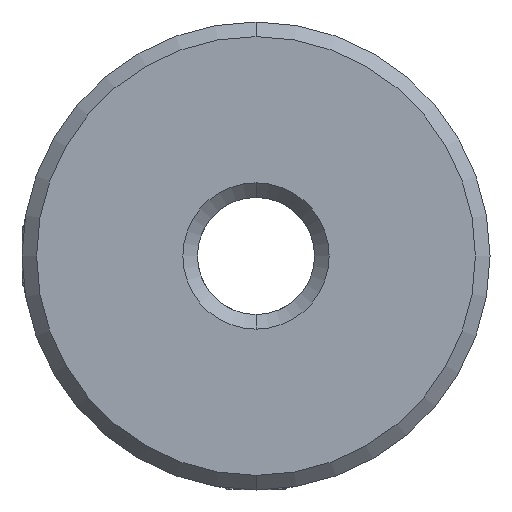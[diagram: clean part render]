
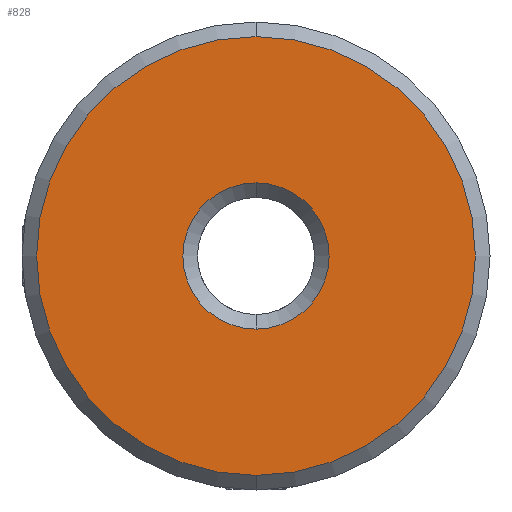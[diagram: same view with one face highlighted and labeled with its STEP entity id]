
A CAD part, front view. The second image highlights one B-rep face of the part: STEP entity #828.
In plain terms, the highlighted planar face has unit normal (0, -1, 0).
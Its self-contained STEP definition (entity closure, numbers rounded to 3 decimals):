
#116 = ORIENTED_EDGE ( 'NONE', *, *, #543, .T. ) ;
#276 = EDGE_CURVE ( 'NONE', #509, #3499, #3611, .T. ) ;
#509 = VERTEX_POINT ( 'NONE', #2819 ) ;
#543 = EDGE_CURVE ( 'NONE', #1929, #1577, #672, .T. ) ;
#672 = CIRCLE ( 'NONE', #743, 2.5 ) ;
#743 = AXIS2_PLACEMENT_3D ( 'NONE', #869, #1948, #3118 ) ;
#797 = CIRCLE ( 'NONE', #1383, 2.5 ) ;
#828 = ADVANCED_FACE ( 'NONE', ( #1613, #3283 ), #3032, .F. ) ;
#869 = CARTESIAN_POINT ( 'NONE',  ( -10.188, -12.277, 0.046 ) ) ;
#993 = CARTESIAN_POINT ( 'NONE',  ( -10.188, -12.277, 0.046 ) ) ;
#1089 = DIRECTION ( 'NONE',  ( 0., -1., 0. ) ) ;
#1251 = EDGE_CURVE ( 'NONE', #1577, #1929, #797, .T. ) ;
#1340 = CARTESIAN_POINT ( 'NONE',  ( -10.188, -12.277, 7.546 ) ) ;
#1383 = AXIS2_PLACEMENT_3D ( 'NONE', #2631, #3431, #3178 ) ;
#1539 = CARTESIAN_POINT ( 'NONE',  ( -10.188, -12.277, 0.046 ) ) ;
#1577 = VERTEX_POINT ( 'NONE', #2979 ) ;
#1613 = FACE_OUTER_BOUND ( 'NONE', #2012, .T. ) ;
#1621 = CARTESIAN_POINT ( 'NONE',  ( -10.188, -12.277, 0.046 ) ) ;
#1764 = DIRECTION ( 'NONE',  ( 0., -1., 0. ) ) ;
#1792 = EDGE_LOOP ( 'NONE', ( #116, #2912 ) ) ;
#1852 = AXIS2_PLACEMENT_3D ( 'NONE', #993, #3260, #3002 ) ;
#1929 = VERTEX_POINT ( 'NONE', #3287 ) ;
#1948 = DIRECTION ( 'NONE',  ( 0., 1., 0. ) ) ;
#1968 = AXIS2_PLACEMENT_3D ( 'NONE', #1621, #1089, #2750 ) ;
#2012 = EDGE_LOOP ( 'NONE', ( #3457, #2329 ) ) ;
#2329 = ORIENTED_EDGE ( 'NONE', *, *, #276, .T. ) ;
#2631 = CARTESIAN_POINT ( 'NONE',  ( -10.188, -12.277, 0.046 ) ) ;
#2725 = CIRCLE ( 'NONE', #1968, 7.5 ) ;
#2750 = DIRECTION ( 'NONE',  ( 0., 0., 1. ) ) ;
#2819 = CARTESIAN_POINT ( 'NONE',  ( -10.188, -12.277, -7.454 ) ) ;
#2912 = ORIENTED_EDGE ( 'NONE', *, *, #1251, .T. ) ;
#2979 = CARTESIAN_POINT ( 'NONE',  ( -10.188, -12.277, 2.546 ) ) ;
#3002 = DIRECTION ( 'NONE',  ( 0., 0., 1. ) ) ;
#3032 = PLANE ( 'NONE',  #1852 ) ;
#3118 = DIRECTION ( 'NONE',  ( 0., 0., 1. ) ) ;
#3178 = DIRECTION ( 'NONE',  ( 0., 0., 1. ) ) ;
#3260 = DIRECTION ( 'NONE',  ( 0., 1., 0. ) ) ;
#3283 = FACE_BOUND ( 'NONE', #1792, .T. ) ;
#3287 = CARTESIAN_POINT ( 'NONE',  ( -10.188, -12.277, -2.454 ) ) ;
#3331 = AXIS2_PLACEMENT_3D ( 'NONE', #1539, #1764, #3534 ) ;
#3431 = DIRECTION ( 'NONE',  ( 0., 1., 0. ) ) ;
#3457 = ORIENTED_EDGE ( 'NONE', *, *, #3498, .T. ) ;
#3498 = EDGE_CURVE ( 'NONE', #3499, #509, #2725, .T. ) ;
#3499 = VERTEX_POINT ( 'NONE', #1340 ) ;
#3534 = DIRECTION ( 'NONE',  ( 0., 0., 1. ) ) ;
#3611 = CIRCLE ( 'NONE', #3331, 7.5 ) ;
